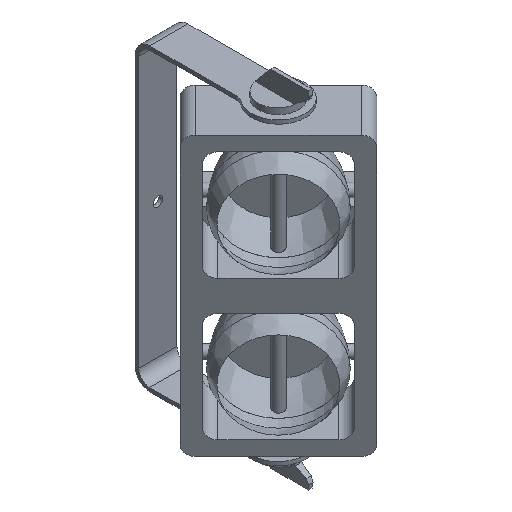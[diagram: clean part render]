
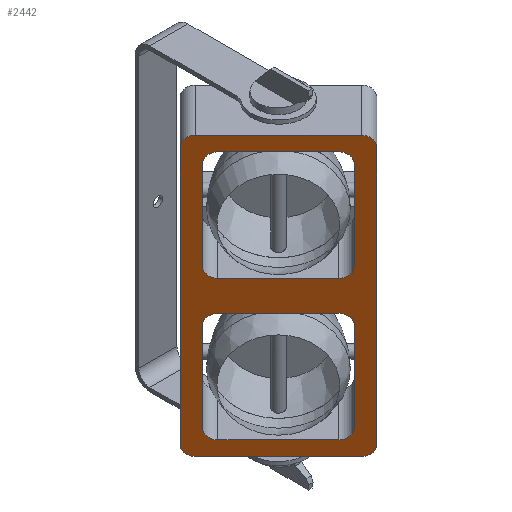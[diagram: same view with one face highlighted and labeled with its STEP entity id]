
A CAD part, isometric view. The second image highlights one B-rep face of the part: STEP entity #2442.
In plain terms, the highlighted planar face has unit normal (-0.707, -0.707, 0) as drawn and (-1, 0, 0) by its records, which use the part's own axes.
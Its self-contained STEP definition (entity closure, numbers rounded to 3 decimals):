
#89=FACE_BOUND('',#441,.T.);
#90=FACE_BOUND('',#442,.T.);
#156=PLANE('',#2674);
#288=FACE_OUTER_BOUND('',#440,.T.);
#440=EDGE_LOOP('',(#2167,#2168,#2169,#2170,#2171,#2172,#2173,#2174));
#441=EDGE_LOOP('',(#2175,#2176,#2177,#2178,#2179,#2180,#2181,#2182));
#442=EDGE_LOOP('',(#2183,#2184,#2185,#2186,#2187,#2188,#2189,#2190));
#617=LINE('',#4743,#851);
#621=LINE('',#4754,#855);
#628=LINE('',#4771,#862);
#634=LINE('',#4784,#868);
#656=LINE('',#4842,#890);
#659=LINE('',#4856,#893);
#662=LINE('',#4867,#896);
#665=LINE('',#4877,#899);
#669=LINE('',#4889,#903);
#672=LINE('',#4897,#906);
#675=LINE('',#4905,#909);
#678=LINE('',#4912,#912);
#851=VECTOR('',#3117,10.);
#855=VECTOR('',#3125,10.);
#862=VECTOR('',#3136,10.);
#868=VECTOR('',#3144,10.);
#890=VECTOR('',#3196,10.);
#893=VECTOR('',#3213,10.);
#896=VECTOR('',#3228,10.);
#899=VECTOR('',#3241,10.);
#903=VECTOR('',#3255,10.);
#906=VECTOR('',#3264,10.);
#909=VECTOR('',#3273,10.);
#912=VECTOR('',#3282,10.);
#986=CIRCLE('',#2640,15.);
#988=CIRCLE('',#2644,15.);
#990=CIRCLE('',#2647,15.);
#992=CIRCLE('',#2651,15.);
#993=CIRCLE('',#2653,15.);
#994=CIRCLE('',#2656,15.);
#995=CIRCLE('',#2658,15.);
#996=CIRCLE('',#2661,15.);
#997=CIRCLE('',#2663,15.);
#998=CIRCLE('',#2666,15.);
#999=CIRCLE('',#2669,15.);
#1000=CIRCLE('',#2672,15.);
#1173=VERTEX_POINT('',#4740);
#1174=VERTEX_POINT('',#4742);
#1178=VERTEX_POINT('',#4751);
#1179=VERTEX_POINT('',#4753);
#1186=VERTEX_POINT('',#4768);
#1187=VERTEX_POINT('',#4770);
#1192=VERTEX_POINT('',#4781);
#1193=VERTEX_POINT('',#4783);
#1212=VERTEX_POINT('',#4834);
#1214=VERTEX_POINT('',#4840);
#1216=VERTEX_POINT('',#4849);
#1218=VERTEX_POINT('',#4855);
#1219=VERTEX_POINT('',#4862);
#1220=VERTEX_POINT('',#4866);
#1221=VERTEX_POINT('',#4872);
#1222=VERTEX_POINT('',#4876);
#1223=VERTEX_POINT('',#4882);
#1224=VERTEX_POINT('',#4883);
#1225=VERTEX_POINT('',#4888);
#1226=VERTEX_POINT('',#4892);
#1227=VERTEX_POINT('',#4896);
#1228=VERTEX_POINT('',#4900);
#1229=VERTEX_POINT('',#4904);
#1230=VERTEX_POINT('',#4908);
#1479=EDGE_CURVE('',#1174,#1173,#617,.T.);
#1484=EDGE_CURVE('',#1179,#1178,#621,.T.);
#1492=EDGE_CURVE('',#1187,#1186,#628,.T.);
#1498=EDGE_CURVE('',#1193,#1192,#634,.T.);
#1527=EDGE_CURVE('',#1186,#1212,#986,.T.);
#1530=EDGE_CURVE('',#1212,#1214,#656,.T.);
#1532=EDGE_CURVE('',#1214,#1193,#988,.T.);
#1534=EDGE_CURVE('',#1216,#1174,#990,.T.);
#1537=EDGE_CURVE('',#1218,#1216,#659,.T.);
#1540=EDGE_CURVE('',#1178,#1218,#992,.T.);
#1541=EDGE_CURVE('',#1219,#1179,#993,.T.);
#1543=EDGE_CURVE('',#1220,#1219,#662,.T.);
#1545=EDGE_CURVE('',#1173,#1220,#994,.T.);
#1546=EDGE_CURVE('',#1221,#1187,#995,.T.);
#1548=EDGE_CURVE('',#1222,#1221,#665,.T.);
#1550=EDGE_CURVE('',#1192,#1222,#996,.T.);
#1551=EDGE_CURVE('',#1223,#1224,#997,.T.);
#1554=EDGE_CURVE('',#1224,#1225,#669,.T.);
#1556=EDGE_CURVE('',#1225,#1226,#998,.T.);
#1558=EDGE_CURVE('',#1226,#1227,#672,.T.);
#1560=EDGE_CURVE('',#1227,#1228,#999,.T.);
#1562=EDGE_CURVE('',#1228,#1229,#675,.T.);
#1564=EDGE_CURVE('',#1229,#1230,#1000,.T.);
#1566=EDGE_CURVE('',#1230,#1223,#678,.T.);
#2167=ORIENTED_EDGE('',*,*,#1566,.T.);
#2168=ORIENTED_EDGE('',*,*,#1551,.T.);
#2169=ORIENTED_EDGE('',*,*,#1554,.T.);
#2170=ORIENTED_EDGE('',*,*,#1556,.T.);
#2171=ORIENTED_EDGE('',*,*,#1558,.T.);
#2172=ORIENTED_EDGE('',*,*,#1560,.T.);
#2173=ORIENTED_EDGE('',*,*,#1562,.T.);
#2174=ORIENTED_EDGE('',*,*,#1564,.T.);
#2175=ORIENTED_EDGE('',*,*,#1484,.T.);
#2176=ORIENTED_EDGE('',*,*,#1540,.T.);
#2177=ORIENTED_EDGE('',*,*,#1537,.T.);
#2178=ORIENTED_EDGE('',*,*,#1534,.T.);
#2179=ORIENTED_EDGE('',*,*,#1479,.T.);
#2180=ORIENTED_EDGE('',*,*,#1545,.T.);
#2181=ORIENTED_EDGE('',*,*,#1543,.T.);
#2182=ORIENTED_EDGE('',*,*,#1541,.T.);
#2183=ORIENTED_EDGE('',*,*,#1548,.T.);
#2184=ORIENTED_EDGE('',*,*,#1546,.T.);
#2185=ORIENTED_EDGE('',*,*,#1492,.T.);
#2186=ORIENTED_EDGE('',*,*,#1527,.T.);
#2187=ORIENTED_EDGE('',*,*,#1530,.T.);
#2188=ORIENTED_EDGE('',*,*,#1532,.T.);
#2189=ORIENTED_EDGE('',*,*,#1498,.T.);
#2190=ORIENTED_EDGE('',*,*,#1550,.T.);
#2442=ADVANCED_FACE('',(#288,#89,#90),#156,.T.);
#2640=AXIS2_PLACEMENT_3D('',#4836,#3190,#3191);
#2644=AXIS2_PLACEMENT_3D('',#4845,#3201,#3202);
#2647=AXIS2_PLACEMENT_3D('',#4850,#3207,#3208);
#2651=AXIS2_PLACEMENT_3D('',#4860,#3219,#3220);
#2653=AXIS2_PLACEMENT_3D('',#4863,#3223,#3224);
#2656=AXIS2_PLACEMENT_3D('',#4870,#3232,#3233);
#2658=AXIS2_PLACEMENT_3D('',#4873,#3236,#3237);
#2661=AXIS2_PLACEMENT_3D('',#4880,#3245,#3246);
#2663=AXIS2_PLACEMENT_3D('',#4884,#3249,#3250);
#2666=AXIS2_PLACEMENT_3D('',#4893,#3259,#3260);
#2669=AXIS2_PLACEMENT_3D('',#4901,#3268,#3269);
#2672=AXIS2_PLACEMENT_3D('',#4909,#3277,#3278);
#2674=AXIS2_PLACEMENT_3D('',#4913,#3283,#3284);
#3117=DIRECTION('',(0.,0.,1.));
#3125=DIRECTION('',(0.,0.,-1.));
#3136=DIRECTION('',(0.,0.,1.));
#3144=DIRECTION('',(0.,0.,-1.));
#3190=DIRECTION('center_axis',(1.,0.,0.));
#3191=DIRECTION('ref_axis',(0.,0.,1.));
#3196=DIRECTION('',(0.,-1.,0.));
#3201=DIRECTION('center_axis',(1.,0.,0.));
#3202=DIRECTION('ref_axis',(0.,-1.,0.));
#3207=DIRECTION('center_axis',(1.,0.,0.));
#3208=DIRECTION('ref_axis',(0.,1.,0.));
#3213=DIRECTION('',(0.,1.,0.));
#3219=DIRECTION('center_axis',(1.,0.,0.));
#3220=DIRECTION('ref_axis',(0.,0.,-1.));
#3223=DIRECTION('center_axis',(1.,0.,0.));
#3224=DIRECTION('ref_axis',(0.,-1.,0.));
#3228=DIRECTION('',(0.,-1.,0.));
#3232=DIRECTION('center_axis',(1.,0.,0.));
#3233=DIRECTION('ref_axis',(0.,0.,1.));
#3236=DIRECTION('center_axis',(1.,0.,0.));
#3237=DIRECTION('ref_axis',(0.,1.,0.));
#3241=DIRECTION('',(0.,1.,0.));
#3245=DIRECTION('center_axis',(1.,0.,0.));
#3246=DIRECTION('ref_axis',(0.,0.,-1.));
#3249=DIRECTION('center_axis',(-1.,0.,0.));
#3250=DIRECTION('ref_axis',(0.,-1.,0.));
#3255=DIRECTION('',(0.,1.,0.));
#3259=DIRECTION('center_axis',(-1.,0.,0.));
#3260=DIRECTION('ref_axis',(0.,0.,1.));
#3264=DIRECTION('',(0.,0.,-1.));
#3268=DIRECTION('center_axis',(-1.,0.,0.));
#3269=DIRECTION('ref_axis',(0.,1.,0.));
#3273=DIRECTION('',(0.,-1.,0.));
#3277=DIRECTION('center_axis',(-1.,0.,0.));
#3278=DIRECTION('ref_axis',(0.,0.,-1.));
#3282=DIRECTION('',(0.,0.,1.));
#3283=DIRECTION('center_axis',(-1.,0.,0.));
#3284=DIRECTION('ref_axis',(0.,-1.,0.));
#4740=CARTESIAN_POINT('',(-46.3,73.387,155.387));
#4742=CARTESIAN_POINT('',(-46.3,73.387,35.613));
#4743=CARTESIAN_POINT('',(-46.3,73.387,17.807));
#4751=CARTESIAN_POINT('',(-46.3,-73.387,35.613));
#4753=CARTESIAN_POINT('',(-46.3,-73.387,155.387));
#4754=CARTESIAN_POINT('',(-46.3,-73.387,77.693));
#4768=CARTESIAN_POINT('',(-46.3,73.387,-35.613));
#4770=CARTESIAN_POINT('',(-46.3,73.387,-155.387));
#4771=CARTESIAN_POINT('',(-46.3,73.387,-77.693));
#4781=CARTESIAN_POINT('',(-46.3,-73.387,-155.387));
#4783=CARTESIAN_POINT('',(-46.3,-73.387,-35.613));
#4784=CARTESIAN_POINT('',(-46.3,-73.387,-17.807));
#4834=CARTESIAN_POINT('',(-46.3,58.387,-20.613));
#4836=CARTESIAN_POINT('Origin',(-46.3,58.387,-35.613));
#4840=CARTESIAN_POINT('',(-46.3,-58.387,-20.613));
#4842=CARTESIAN_POINT('',(-46.3,29.193,-20.613));
#4845=CARTESIAN_POINT('Origin',(-46.3,-58.387,-35.613));
#4849=CARTESIAN_POINT('',(-46.3,58.387,20.613));
#4850=CARTESIAN_POINT('Origin',(-46.3,58.387,35.613));
#4855=CARTESIAN_POINT('',(-46.3,-58.387,20.613));
#4856=CARTESIAN_POINT('',(-46.3,-29.193,20.613));
#4860=CARTESIAN_POINT('Origin',(-46.3,-58.387,35.613));
#4862=CARTESIAN_POINT('',(-46.3,-58.387,170.387));
#4863=CARTESIAN_POINT('Origin',(-46.3,-58.387,155.387));
#4866=CARTESIAN_POINT('',(-46.3,58.387,170.387));
#4867=CARTESIAN_POINT('',(-46.3,29.193,170.387));
#4870=CARTESIAN_POINT('Origin',(-46.3,58.387,155.387));
#4872=CARTESIAN_POINT('',(-46.3,58.387,-170.387));
#4873=CARTESIAN_POINT('Origin',(-46.3,58.387,-155.387));
#4876=CARTESIAN_POINT('',(-46.3,-58.387,-170.387));
#4877=CARTESIAN_POINT('',(-46.3,-29.193,-170.387));
#4880=CARTESIAN_POINT('Origin',(-46.3,-58.387,-155.387));
#4882=CARTESIAN_POINT('',(-46.3,-95.,175.));
#4883=CARTESIAN_POINT('',(-46.3,-80.,190.));
#4884=CARTESIAN_POINT('Origin',(-46.3,-80.,175.));
#4888=CARTESIAN_POINT('',(-46.3,80.,190.));
#4889=CARTESIAN_POINT('',(-46.3,-80.,190.));
#4892=CARTESIAN_POINT('',(-46.3,95.,175.));
#4893=CARTESIAN_POINT('Origin',(-46.3,80.,175.));
#4896=CARTESIAN_POINT('',(-46.3,95.,-175.));
#4897=CARTESIAN_POINT('',(-46.3,95.,175.));
#4900=CARTESIAN_POINT('',(-46.3,80.,-190.));
#4901=CARTESIAN_POINT('Origin',(-46.3,80.,-175.));
#4904=CARTESIAN_POINT('',(-46.3,-80.,-190.));
#4905=CARTESIAN_POINT('',(-46.3,80.,-190.));
#4908=CARTESIAN_POINT('',(-46.3,-95.,-175.));
#4909=CARTESIAN_POINT('Origin',(-46.3,-80.,-175.));
#4912=CARTESIAN_POINT('',(-46.3,-95.,-175.));
#4913=CARTESIAN_POINT('Origin',(-46.3,0.,0.));
